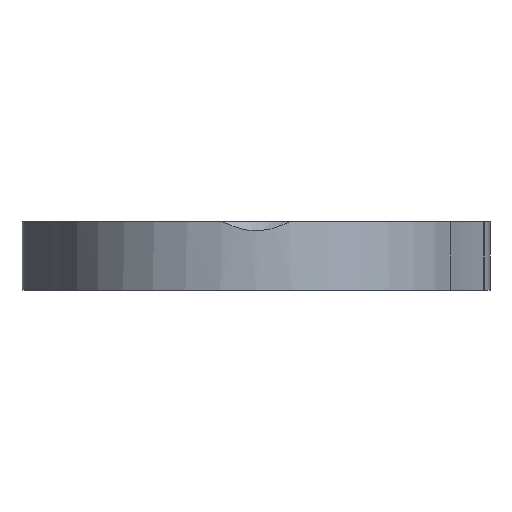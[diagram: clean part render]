
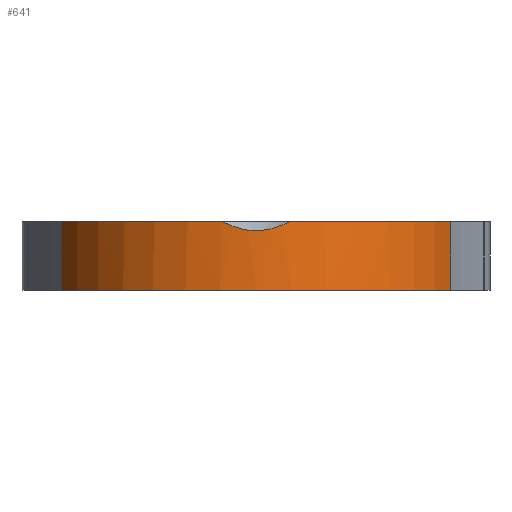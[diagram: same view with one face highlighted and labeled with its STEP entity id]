
A CAD part, front view. The second image highlights one B-rep face of the part: STEP entity #641.
In plain terms, the highlighted cylindrical face has radius 11.5 mm (diameter 23 mm), a partial arc.
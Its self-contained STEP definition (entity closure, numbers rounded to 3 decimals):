
#15=B_SPLINE_CURVE_WITH_KNOTS('',3,(#1087,#1088,#1089,#1090,#1091,#1092,
#1093,#1094,#1095,#1096),.UNSPECIFIED.,.F.,.F.,(4,2,2,2,4),(1.626,
1.751,1.873,1.995,2.003),
 .UNSPECIFIED.);
#20=CYLINDRICAL_SURFACE('',#726,11.5);
#74=FACE_OUTER_BOUND('',#120,.T.);
#120=EDGE_LOOP('',(#498,#499,#500,#501,#502,#503));
#164=LINE('',#1106,#197);
#165=LINE('',#1108,#198);
#197=VECTOR('',#882,10.);
#198=VECTOR('',#883,10.);
#223=CIRCLE('',#684,11.5);
#257=CIRCLE('',#727,11.5);
#258=CIRCLE('',#728,11.5);
#283=VERTEX_POINT('',#1008);
#284=VERTEX_POINT('',#1009);
#314=VERTEX_POINT('',#1085);
#315=VERTEX_POINT('',#1086);
#318=VERTEX_POINT('',#1104);
#319=VERTEX_POINT('',#1107);
#344=EDGE_CURVE('',#283,#284,#223,.T.);
#382=EDGE_CURVE('',#314,#315,#15,.T.);
#387=EDGE_CURVE('',#318,#314,#257,.T.);
#388=EDGE_CURVE('',#284,#318,#164,.T.);
#389=EDGE_CURVE('',#319,#283,#165,.T.);
#390=EDGE_CURVE('',#315,#319,#258,.T.);
#498=ORIENTED_EDGE('',*,*,#382,.F.);
#499=ORIENTED_EDGE('',*,*,#387,.F.);
#500=ORIENTED_EDGE('',*,*,#388,.F.);
#501=ORIENTED_EDGE('',*,*,#344,.F.);
#502=ORIENTED_EDGE('',*,*,#389,.F.);
#503=ORIENTED_EDGE('',*,*,#390,.F.);
#641=ADVANCED_FACE('',(#74),#20,.T.);
#684=AXIS2_PLACEMENT_3D('',#1010,#786,#787);
#726=AXIS2_PLACEMENT_3D('',#1103,#878,#879);
#727=AXIS2_PLACEMENT_3D('',#1105,#880,#881);
#728=AXIS2_PLACEMENT_3D('',#1109,#884,#885);
#786=DIRECTION('center_axis',(0.,0.,-1.));
#787=DIRECTION('ref_axis',(1.,0.,0.));
#878=DIRECTION('center_axis',(0.,0.,-1.));
#879=DIRECTION('ref_axis',(1.,0.,0.));
#880=DIRECTION('center_axis',(0.,0.,1.));
#881=DIRECTION('ref_axis',(1.,0.,0.));
#882=DIRECTION('',(0.,0.,1.));
#883=DIRECTION('',(0.,0.,-1.));
#884=DIRECTION('center_axis',(0.,0.,1.));
#885=DIRECTION('ref_axis',(1.,0.,0.));
#1008=CARTESIAN_POINT('',(10.771,-13.529,11.2));
#1009=CARTESIAN_POINT('',(-10.771,-13.529,11.2));
#1010=CARTESIAN_POINT('Origin',(0.,-9.5,
11.2));
#1085=CARTESIAN_POINT('',(-1.868,-20.847,15.));
#1086=CARTESIAN_POINT('',(1.868,-20.847,15.));
#1087=CARTESIAN_POINT('Ctrl Pts',(-1.868,-20.847,15.));
#1088=CARTESIAN_POINT('Ctrl Pts',(-1.478,-20.912,14.807));
#1089=CARTESIAN_POINT('Ctrl Pts',(-1.077,-20.957,14.653));
#1090=CARTESIAN_POINT('Ctrl Pts',(-0.271,-21.004,
14.488));
#1091=CARTESIAN_POINT('Ctrl Pts',(0.17,-21.007,14.477));
#1092=CARTESIAN_POINT('Ctrl Pts',(1.027,-20.962,14.634));
#1093=CARTESIAN_POINT('Ctrl Pts',(1.442,-20.915,14.794));
#1094=CARTESIAN_POINT('Ctrl Pts',(1.826,-20.854,14.979));
#1095=CARTESIAN_POINT('Ctrl Pts',(1.847,-20.851,14.99));
#1096=CARTESIAN_POINT('Ctrl Pts',(1.868,-20.847,15.));
#1103=CARTESIAN_POINT('Origin',(0.,-9.5,
15.));
#1104=CARTESIAN_POINT('',(-10.771,-13.529,15.));
#1105=CARTESIAN_POINT('Origin',(0.,-9.5,
15.));
#1106=CARTESIAN_POINT('',(-10.771,-13.529,15.));
#1107=CARTESIAN_POINT('',(10.771,-13.529,15.));
#1108=CARTESIAN_POINT('',(10.771,-13.529,15.));
#1109=CARTESIAN_POINT('Origin',(0.,-9.5,
15.));
